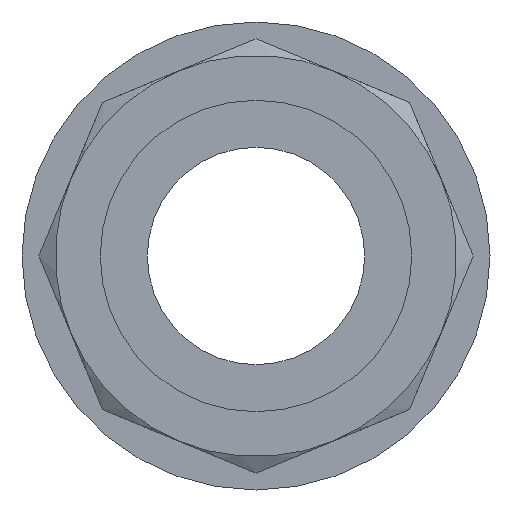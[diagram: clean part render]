
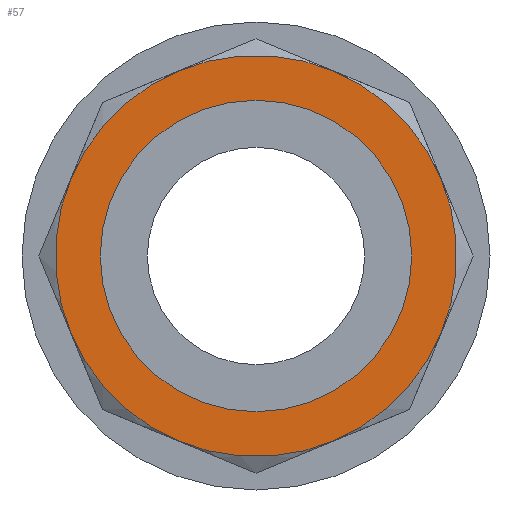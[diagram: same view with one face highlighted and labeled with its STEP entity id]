
A CAD part, front view. The second image highlights one B-rep face of the part: STEP entity #57.
In plain terms, the highlighted planar face has unit normal (0, -1, 0).
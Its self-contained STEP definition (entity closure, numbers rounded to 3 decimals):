
#57=ADVANCED_FACE('',(#327,#329),#331,.F.);
#327=FACE_BOUND('',#328,.T.);
#328=EDGE_LOOP('',(#558,#559,#560,#561,#562,#563,#564,#565));
#329=FACE_BOUND('',#330,.T.);
#330=EDGE_LOOP('',(#566));
#331=PLANE('',#332);
#332=AXIS2_PLACEMENT_3D('',#333,#334,#335);
#333=CARTESIAN_POINT('',(0.,0.,0.));
#334=DIRECTION('',(0.,1.,0.));
#335=DIRECTION('',(-1.,0.,0.));
#558=ORIENTED_EDGE('',*,*,#664,.T.);
#559=ORIENTED_EDGE('',*,*,#665,.T.);
#560=ORIENTED_EDGE('',*,*,#666,.T.);
#561=ORIENTED_EDGE('',*,*,#667,.T.);
#562=ORIENTED_EDGE('',*,*,#668,.T.);
#563=ORIENTED_EDGE('',*,*,#669,.T.);
#564=ORIENTED_EDGE('',*,*,#670,.T.);
#565=ORIENTED_EDGE('',*,*,#671,.T.);
#566=ORIENTED_EDGE('',*,*,#672,.T.);
#664=EDGE_CURVE('',#719,#720,#721,.F.);
#665=EDGE_CURVE('',#720,#722,#723,.F.);
#666=EDGE_CURVE('',#722,#724,#725,.F.);
#667=EDGE_CURVE('',#724,#726,#727,.F.);
#668=EDGE_CURVE('',#726,#728,#729,.F.);
#669=EDGE_CURVE('',#728,#730,#731,.F.);
#670=EDGE_CURVE('',#730,#732,#733,.F.);
#671=EDGE_CURVE('',#732,#719,#734,.F.);
#672=EDGE_CURVE('',#735,#735,#736,.F.);
#719=VERTEX_POINT('',#815);
#720=VERTEX_POINT('',#816);
#721=CIRCLE('',#817,12.);
#722=VERTEX_POINT('',#821);
#723=CIRCLE('',#822,12.);
#724=VERTEX_POINT('',#826);
#725=CIRCLE('',#827,12.);
#726=VERTEX_POINT('',#831);
#727=CIRCLE('',#832,12.);
#728=VERTEX_POINT('',#836);
#729=CIRCLE('',#837,12.);
#730=VERTEX_POINT('',#841);
#731=CIRCLE('',#842,12.);
#732=VERTEX_POINT('',#846);
#733=CIRCLE('',#847,12.);
#734=CIRCLE('',#851,12.);
#735=VERTEX_POINT('',#855);
#736=CIRCLE('',#856,9.316);
#815=CARTESIAN_POINT('',(-11.087,0.,4.592));
#816=CARTESIAN_POINT('',(-11.087,0.,-4.592));
#817=AXIS2_PLACEMENT_3D('',#818,#819,#820);
#818=CARTESIAN_POINT('',(0.,0.,0.));
#819=DIRECTION('',(0.,1.,0.));
#820=DIRECTION('',(-0.924,0.,-0.383));
#821=CARTESIAN_POINT('',(-4.592,0.,-11.087));
#822=AXIS2_PLACEMENT_3D('',#823,#824,#825);
#823=CARTESIAN_POINT('',(0.,0.,0.));
#824=DIRECTION('',(0.,1.,0.));
#825=DIRECTION('',(-0.383,0.,-0.924));
#826=CARTESIAN_POINT('',(4.592,0.,-11.087));
#827=AXIS2_PLACEMENT_3D('',#828,#829,#830);
#828=CARTESIAN_POINT('',(0.,0.,0.));
#829=DIRECTION('',(0.,1.,0.));
#830=DIRECTION('',(0.383,0.,-0.924));
#831=CARTESIAN_POINT('',(11.087,0.,-4.592));
#832=AXIS2_PLACEMENT_3D('',#833,#834,#835);
#833=CARTESIAN_POINT('',(0.,0.,0.));
#834=DIRECTION('',(0.,1.,0.));
#835=DIRECTION('',(0.924,0.,-0.383));
#836=CARTESIAN_POINT('',(11.087,0.,4.592));
#837=AXIS2_PLACEMENT_3D('',#838,#839,#840);
#838=CARTESIAN_POINT('',(0.,0.,0.));
#839=DIRECTION('',(0.,1.,0.));
#840=DIRECTION('',(0.924,0.,0.383));
#841=CARTESIAN_POINT('',(4.592,0.,11.087));
#842=AXIS2_PLACEMENT_3D('',#843,#844,#845);
#843=CARTESIAN_POINT('',(0.,0.,0.));
#844=DIRECTION('',(0.,1.,0.));
#845=DIRECTION('',(0.383,0.,0.924));
#846=CARTESIAN_POINT('',(-4.592,0.,11.087));
#847=AXIS2_PLACEMENT_3D('',#848,#849,#850);
#848=CARTESIAN_POINT('',(0.,0.,0.));
#849=DIRECTION('',(0.,1.,0.));
#850=DIRECTION('',(-0.383,0.,0.924));
#851=AXIS2_PLACEMENT_3D('',#852,#853,#854);
#852=CARTESIAN_POINT('',(0.,0.,0.));
#853=DIRECTION('',(0.,1.,0.));
#854=DIRECTION('',(-0.924,0.,0.383));
#855=CARTESIAN_POINT('',(0.,0.,9.316));
#856=AXIS2_PLACEMENT_3D('',#857,#858,#859);
#857=CARTESIAN_POINT('',(0.,0.,0.));
#858=DIRECTION('',(0.,-1.,0.));
#859=DIRECTION('',(0.,0.,1.));
